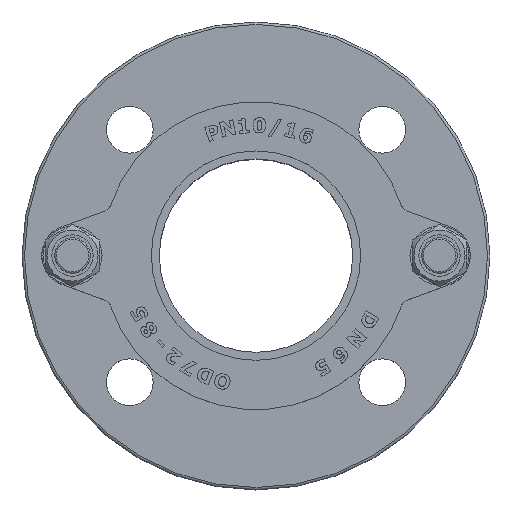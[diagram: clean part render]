
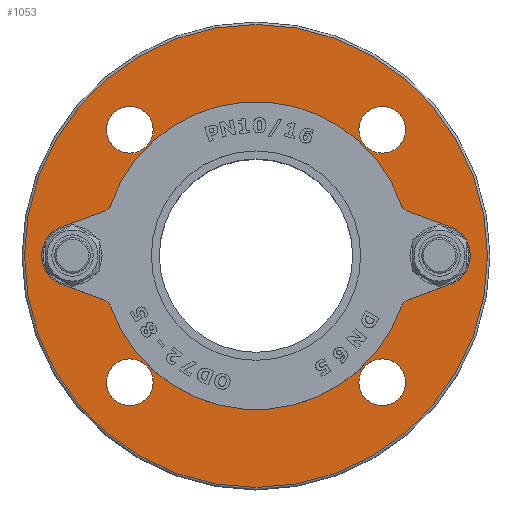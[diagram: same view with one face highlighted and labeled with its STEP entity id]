
A CAD part, top view. The second image highlights one B-rep face of the part: STEP entity #1053.
In plain terms, the highlighted planar face has unit normal (0, 0, 1).
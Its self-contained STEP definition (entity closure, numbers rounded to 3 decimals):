
#1053=ADVANCED_FACE('',(#5348,#5350,#5352,#5354,#5356,#5358,#5360,#5362),#5364,.T.);
#5348=FACE_BOUND('',#5349,.T.);
#5349=EDGE_LOOP('',(#10334));
#5350=FACE_BOUND('',#5351,.T.);
#5351=EDGE_LOOP('',(#10335));
#5352=FACE_BOUND('',#5353,.T.);
#5353=EDGE_LOOP('',(#10336));
#5354=FACE_BOUND('',#5355,.T.);
#5355=EDGE_LOOP('',(#10337));
#5356=FACE_BOUND('',#5357,.T.);
#5357=EDGE_LOOP('',(#10338));
#5358=FACE_BOUND('',#5359,.T.);
#5359=EDGE_LOOP('',(#10339));
#5360=FACE_BOUND('',#5361,.T.);
#5361=EDGE_LOOP('',(#10340));
#5362=FACE_BOUND('',#5363,.T.);
#5363=EDGE_LOOP('',(#10341));
#5364=PLANE('',#5365);
#5365=AXIS2_PLACEMENT_3D('',#5366,#5367,#5368);
#5366=CARTESIAN_POINT('',(0.,0.,19.));
#5367=DIRECTION('',(0.,0.,1.));
#5368=DIRECTION('',(-1.,0.,0.));
#10334=ORIENTED_EDGE('',*,*,#14318,.T.);
#10335=ORIENTED_EDGE('',*,*,#14316,.T.);
#10336=ORIENTED_EDGE('',*,*,#14319,.T.);
#10337=ORIENTED_EDGE('',*,*,#14320,.T.);
#10338=ORIENTED_EDGE('',*,*,#14321,.T.);
#10339=ORIENTED_EDGE('',*,*,#14322,.T.);
#10340=ORIENTED_EDGE('',*,*,#14323,.T.);
#10341=ORIENTED_EDGE('',*,*,#14324,.T.);
#14316=EDGE_CURVE('',#16033,#16033,#16034,.T.);
#14318=EDGE_CURVE('',#16037,#16037,#16038,.T.);
#14319=EDGE_CURVE('',#16039,#16039,#16040,.F.);
#14320=EDGE_CURVE('',#16041,#16041,#16042,.F.);
#14321=EDGE_CURVE('',#16043,#16043,#16044,.T.);
#14322=EDGE_CURVE('',#16045,#16045,#16046,.T.);
#14323=EDGE_CURVE('',#16047,#16047,#16048,.T.);
#14324=EDGE_CURVE('',#16049,#16049,#16050,.T.);
#16033=VERTEX_POINT('',#21431);
#16034=CIRCLE('',#21432,47.5);
#16037=VERTEX_POINT('',#21441);
#16038=CIRCLE('',#21442,94.);
#16039=VERTEX_POINT('',#21446);
#16040=CIRCLE('',#21447,8.);
#16041=VERTEX_POINT('',#21451);
#16042=CIRCLE('',#21452,8.);
#16043=VERTEX_POINT('',#21456);
#16044=CIRCLE('',#21457,9.5);
#16045=VERTEX_POINT('',#21461);
#16046=CIRCLE('',#21462,9.5);
#16047=VERTEX_POINT('',#21466);
#16048=CIRCLE('',#21467,9.5);
#16049=VERTEX_POINT('',#21471);
#16050=CIRCLE('',#21472,9.5);
#21431=CARTESIAN_POINT('',(0.,47.5,19.));
#21432=AXIS2_PLACEMENT_3D('',#21433,#21434,#21435);
#21433=CARTESIAN_POINT('',(0.,0.,19.));
#21434=DIRECTION('',(0.,0.,-1.));
#21435=DIRECTION('',(0.,1.,0.));
#21441=CARTESIAN_POINT('',(-94.,0.,19.));
#21442=AXIS2_PLACEMENT_3D('',#21443,#21444,#21445);
#21443=CARTESIAN_POINT('',(0.,0.,19.));
#21444=DIRECTION('',(0.,0.,1.));
#21445=DIRECTION('',(-1.,0.,0.));
#21446=CARTESIAN_POINT('',(82.5,0.,19.));
#21447=AXIS2_PLACEMENT_3D('',#21448,#21449,#21450);
#21448=CARTESIAN_POINT('',(74.5,0.,19.));
#21449=DIRECTION('',(0.,0.,1.));
#21450=DIRECTION('',(1.,0.,0.));
#21451=CARTESIAN_POINT('',(-82.5,0.,19.));
#21452=AXIS2_PLACEMENT_3D('',#21453,#21454,#21455);
#21453=CARTESIAN_POINT('',(-74.5,0.,19.));
#21454=DIRECTION('',(0.,0.,1.));
#21455=DIRECTION('',(-1.,0.,0.));
#21456=CARTESIAN_POINT('',(-60.765,51.265,19.));
#21457=AXIS2_PLACEMENT_3D('',#21458,#21459,#21460);
#21458=CARTESIAN_POINT('',(-51.265,51.265,19.));
#21459=DIRECTION('',(0.,0.,-1.));
#21460=DIRECTION('',(-1.,0.,0.));
#21461=CARTESIAN_POINT('',(-51.265,-60.765,19.));
#21462=AXIS2_PLACEMENT_3D('',#21463,#21464,#21465);
#21463=CARTESIAN_POINT('',(-51.265,-51.265,19.));
#21464=DIRECTION('',(0.,0.,-1.));
#21465=DIRECTION('',(0.,-1.,0.));
#21466=CARTESIAN_POINT('',(51.265,60.765,19.));
#21467=AXIS2_PLACEMENT_3D('',#21468,#21469,#21470);
#21468=CARTESIAN_POINT('',(51.265,51.265,19.));
#21469=DIRECTION('',(0.,0.,-1.));
#21470=DIRECTION('',(0.,1.,0.));
#21471=CARTESIAN_POINT('',(60.765,-51.265,19.));
#21472=AXIS2_PLACEMENT_3D('',#21473,#21474,#21475);
#21473=CARTESIAN_POINT('',(51.265,-51.265,19.));
#21474=DIRECTION('',(0.,0.,-1.));
#21475=DIRECTION('',(1.,0.,0.));
